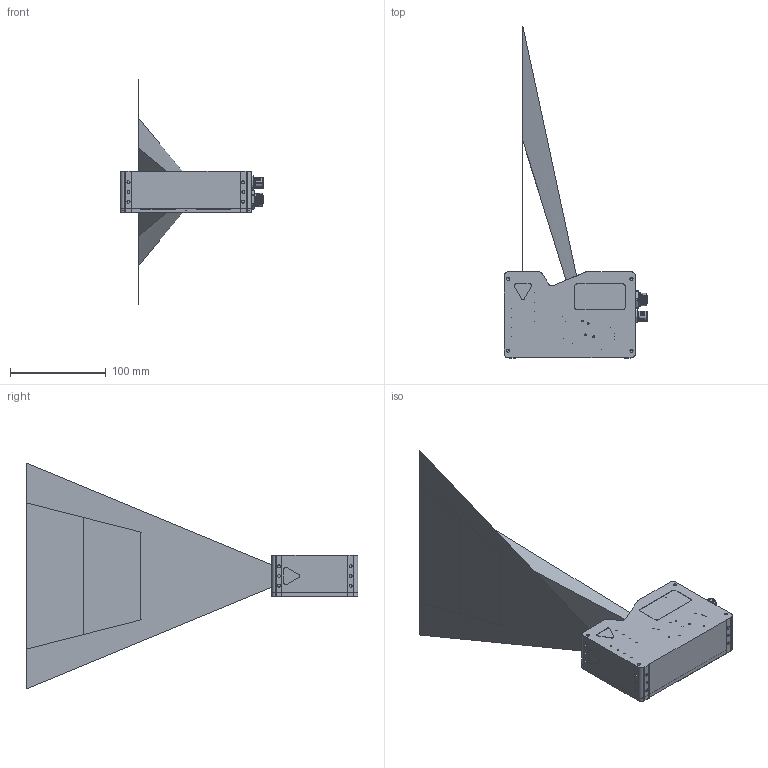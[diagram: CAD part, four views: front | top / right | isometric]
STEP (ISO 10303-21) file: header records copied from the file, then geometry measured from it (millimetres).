
FILE_DESCRIPTION(/* description */ (''),/* implementation_level */ '2;1');
FILE_NAME(/* name */ 'C6-S7-1280-CS-14-120-197-SX-1G-XXX-XX_Public.iam.stp',/* time_stamp */ '2025-06-02T13:47:28+02:00',/* author */ ('AT'),/* organization */ ('Automation Technology GmbH'),/* preprocessor_version */ 'ST-DEVELOPER v20',/* originating_system */ 'Autodesk Inventor 2024',/* authorisation */ '');
FILE_SCHEMA (('AUTOMOTIVE_DESIGN { 1 0 10303 214 3 1 1 }'));
Products named in the file (20): C6-S7-1280-CS-14-120-197-SX-1G-XXX-XX_Public; Screw GB/T 2672 M2,5 x 4; Screw GB/T 2672 M2,5 x 6; 202202010-028; 202202010-002; 202202010-009; 202202010-010; EO: 48-924; Glasscheibe33x1; C6-S7-1280-CS-14-120-197-SX-1G-XXX-XX_Strahlengang; 1292.6001; SACC-DSI-FS-8CON-L180_SCO SH_1553860-01; SACC-DSI-FS-8CON-L180_SCO SH_1553860_Stecker; SACC-DSI-FS-8CON-L180_SCO SH_1553860_Mutter; SACC-DSI-FS-8CON-L180_SCO SH_1553860_Kunststoffeinsatz; SACC-DSI-MS-17CON-M12 SCO SH_1437119-01; SACC-DSI-MS-17CON-M12 SCO SH_1437119_Stecker; SACC-DSI-MS-17CON-M12 SCO SH_1437119_Mutter; SACC-DSI-MS-17CON-M12 SCO SH_1437119_Pins; SACC-DSI-MS-17CON-M12 SCO SH_1437119_Kunststoffeinsatz
Assembly tree (36 placements, depth 3):
  C6-S7-1280-CS-14-120-197-SX-1G-XXX-XX_Public
    Screw GB/T 2672 M2,5 x 4  x8
    Screw GB/T 2672 M2,5 x 6  x7
    202202010-028
    202202010-002
    202202010-009
    202202010-010
    EO: 48-924
    Glasscheibe33x1
    C6-S7-1280-CS-14-120-197-SX-1G-XXX-XX_Strahlengang
    1292.6001  x5
    SACC-DSI-FS-8CON-L180_SCO SH_1553860-01
      SACC-DSI-FS-8CON-L180_SCO SH_1553860_Stecker
      SACC-DSI-FS-8CON-L180_SCO SH_1553860_Mutter
      SACC-DSI-FS-8CON-L180_SCO SH_1553860_Kunststoffeinsatz
    SACC-DSI-MS-17CON-M12 SCO SH_1437119-01
      SACC-DSI-MS-17CON-M12 SCO SH_1437119_Stecker
      SACC-DSI-MS-17CON-M12 SCO SH_1437119_Mutter
      SACC-DSI-MS-17CON-M12 SCO SH_1437119_Pins
      SACC-DSI-MS-17CON-M12 SCO SH_1437119_Kunststoffeinsatz
Bounding box: 150.15 x 347.1 x 236.39 mm (x, y, z)
Volume: 484737.7 mm3; surface area: 195516.8 mm2
Topology: 51 solids, 52 shells, 2268 faces, 5438 edges, 3385 vertices
Faces by surface type: cylinder 950, plane 880, bspline 181, cone 123, torus 85, sphere 49
Full cylindrical faces by diameter (mm): 0.217 x1, 0.6 x25, 0.63 x34, 0.9 x8, 1 x10, 1.1 x17, 1.2 x17, 1.5 x5, 1.567 x7, 1.6 x5, 2 x15, 2.013 x36, 2.208 x15, 2.4 x15, 2.5 x15, 2.6 x12, 2.8 x8, 3 x4, 3.242 x12, 5 x15, 5.5 x15, 7.7 x1, 8.25 x2, 8.3 x1, 8.7 x1, 10.5 x1, 10.7 x3, 10.917 x2, 12 x1, 12.2 x1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
Entity records: 86605 total; most frequent: CARTESIAN_POINT 45537, ORIENTED_EDGE 8184, DIRECTION 8085, EDGE_CURVE 4094, AXIS2_PLACEMENT_3D 2963, VERTEX_POINT 2702, LINE 2159, VECTOR 2159
